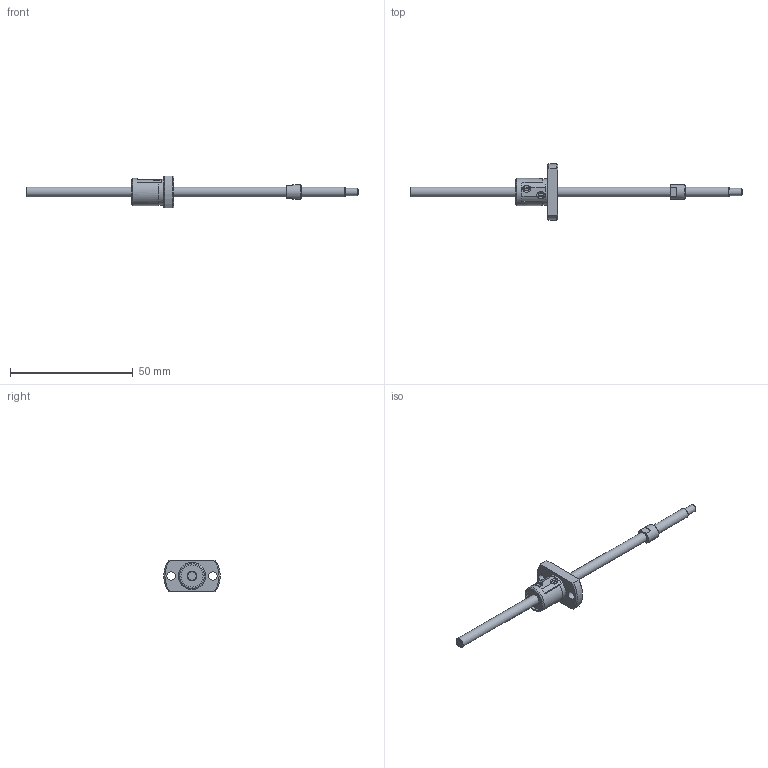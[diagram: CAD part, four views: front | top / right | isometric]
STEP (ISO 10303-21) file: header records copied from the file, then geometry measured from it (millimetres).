
FILE_DESCRIPTION( ( 'STEP AP214' ), '1' );
FILE_NAME( 'p:/temp/worker_6/3108_1760/app_53_12015063013562755118960260eae72_00_00_00_000/STEP/SG0401-103R135C3A1X_43__2_14.stp', ' ', ( ' ' ), ( ' ' ), 'PSStep 15.0.47', 'PARTsolutions', ' ' );
FILE_SCHEMA( ( 'AUTOMOTIVE_DESIGN { 1 0 10303 214 1 1 1 1 }' ) );
Length unit declared in the file: millimetre
Products named in the file (3): SG0401-103R135C3A1X(43); _SG0401-103R135C3A_shaft; _SG0401_nut
Assembly tree (2 placements, depth 2):
  SG0401-103R135C3A1X(43)
    _SG0401-103R135C3A_shaft
    _SG0401_nut
Bounding box: 135 x 22.92 x 13 mm (x, y, z)
Volume: 3676.6 mm3; surface area: 3315.7 mm2
Topology: 2 solids, 2 shells, 71 faces, 174 edges, 115 vertices
Faces by surface type: plane 34, cylinder 23, cone 13, torus 1
Full cylindrical faces by diameter (mm): 3 x1, 3.4 x2, 4 x3, 6 x1, 9 x2, 10.6 x1, 11 x1
Entity records: 2592 total; most frequent: CARTESIAN_POINT 400, DIRECTION 340, ORIENTED_EDGE 286, EDGE_CURVE 143, AXIS2_PLACEMENT_3D 141, EDGE_LOOP 106, VERTEX_POINT 105, FACE_OUTER_BOUND 83
